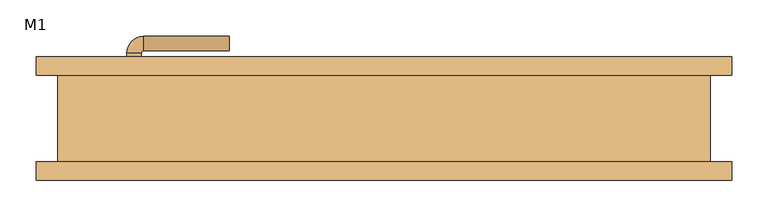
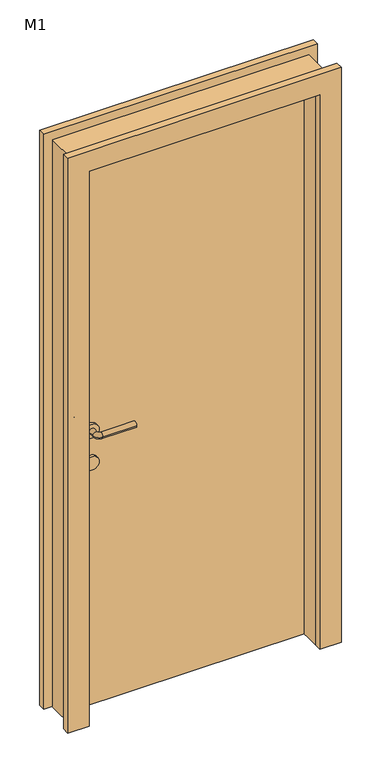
"""IFC4 building model written with IfcOpenShell, lengths in millimetres: door geometry, 单嵌板木门 1 : M1."""

from ifc_helpers import new_model, si_unit, point, frame, frame_2d, origin, origin_with_axes, place, context, project, spatial, polyline, circle_curve, ellipse_curve, trimmed, segment, composite_curve, outline, extrude, source, transform, mapped, element, save
from ifc_brep_helpers import plane_surface, cylinder_surface, revolved_surface, advanced_brep


def m1_b2f3dea5(model_context):
    return source(origin(), model_context, "Body", "SolidModel", [
        extrude(outline(composite_curve([segment(trimmed(circle_curve(frame_2d((900.0, -345.0)), 25.0), [point((900.0, -320.0))], [point((900.0, -370.0))], False, "CARTESIAN"), True, "CONTINUOUS"), segment(trimmed(circle_curve(frame_2d((900.0, -345.0)), 25.0), [point((900.0, -370.0))], [point((900.0, -320.0))], False, "CARTESIAN"), True, "CONTINUOUS")], self_intersect=False)), frame((0.0, 0.0, 0.0), z_axis=(0.0, 1.0, 0.0), x_axis=(0.0, 0.0, 1.0)), (0.0, 0.0, 1.0), 10.0),
        extrude(outline(composite_curve([segment(trimmed(circle_curve(frame_2d((900.0, -345.0)), 25.0), [point((900.0, -320.0))], [point((900.0, -370.0))], False, "CARTESIAN"), True, "CONTINUOUS"), segment(trimmed(circle_curve(frame_2d((900.0, -345.0)), 25.0), [point((900.0, -370.0))], [point((900.0, -320.0))], False, "CARTESIAN"), True, "CONTINUOUS")], self_intersect=False)), frame((0.0, 60.0, 0.0), z_axis=(0.0, 1.0, 0.0), x_axis=(0.0, 0.0, 1.0)), (0.0, 0.0, 1.0), 10.0),
        advanced_brep(
        [(-355.0, 0.0, 1020.0), (-335.0, 0.0, 1020.0), (-335.0, -20.613355, 1020.0), (-355.0, -20.613355, 1020.0), (-213.419036, -43.580964, 1020.0), (-213.419036, -23.580964, 1020.0), (-332.0323911, -23.580964, 1020.0), (-332.0323911, -43.580964, 1020.0)],
        [
            (0, 1, circle_curve(frame((-345.0, 0.0, 1020.0), z_axis=(0.0, 1.0, 0.0), x_axis=(1.0, 0.0, 0.0)), 10.0)),
            (1, 0, circle_curve(frame((-345.0, 0.0, 1020.0), z_axis=(0.0, 1.0, 0.0), x_axis=(1.0, 0.0, 0.0)), 10.0)),
            (1, 2),
            (2, 3, circle_curve(frame((-345.0, -20.613355, 1020.0), z_axis=(0.0, 1.0, 0.0), x_axis=(1.0, 0.0, 0.0)), 10.0)),
            (3, 0),
            (3, 2, circle_curve(frame((-345.0, -20.613355, 1020.0), z_axis=(0.0, 1.0, 0.0), x_axis=(1.0, 0.0, 0.0)), 10.0)),
            (4, 5, circle_curve(frame((-213.419036, -33.580964, 1020.0), z_axis=(1.0, 0.0, 0.0), x_axis=(0.0, 1.0, 0.0)), 10.0)),
            (5, 4, circle_curve(frame((-213.419036, -33.580964, 1020.0), z_axis=(1.0, 0.0, 0.0), x_axis=(0.0, 1.0, 0.0)), 10.0)),
            (6, 2, circle_curve(frame((-332.0323911, -20.613355, 1020.0), z_axis=(0.0, 0.0, -1.0), x_axis=(-1.0, 0.0, 0.0)), 2.9676089)),
            (3, 7, circle_curve(frame((-332.0323911, -20.613355, 1020.0), z_axis=(0.0, 0.0, 1.0), x_axis=(-1.0, 0.0, 0.0)), 22.9676089)),
            (7, 6, circle_curve(frame((-332.0323911, -33.580964, 1020.0), z_axis=(-1.0, 0.0, 0.0), x_axis=(0.0, 1.0, 0.0)), 10.0)),
            (6, 7, circle_curve(frame((-332.0323911, -33.580964, 1020.0), z_axis=(-1.0, 0.0, 0.0), x_axis=(0.0, 1.0, 0.0)), 10.0)),
            (7, 4),
            (5, 6),
        ],
        [
            plane_surface(frame((-345.0, 0.0, 900.0), z_axis=(0.0, 1.0, 0.0), x_axis=(0.0, 0.0, 1.0))),
            cylinder_surface(frame((-345.0, 0.0, 1020.0), z_axis=(0.0, 1.0, 0.0), x_axis=(1.0, 0.0, 0.0)), 10.0),
            plane_surface(frame((-213.419036, -33.580964, 900.0), z_axis=(1.0, 0.0, 0.0), x_axis=(0.0, 0.0, 1.0))),
            revolved_surface(trimmed(ellipse_curve(frame((-345.0, -20.613355, 1020.0), z_axis=(0.0, 1.0, 0.0), x_axis=(1.0, 0.0, 0.0)), 10.0, 10.0), [point((-355.0, -20.613355, 1020.0))], [point((-335.0, -20.613355, 1020.0))], True, "CARTESIAN"), (-332.0323911, -20.613355, 900.0), (0.0, 0.0, 1.0)),
            revolved_surface(trimmed(ellipse_curve(frame((-345.0, -20.613355, 1020.0), z_axis=(0.0, 1.0, 0.0), x_axis=(1.0, 0.0, 0.0)), 10.0, 10.0), [point((-335.0, -20.613355, 1020.0))], [point((-355.0, -20.613355, 1020.0))], True, "CARTESIAN"), (-332.0323911, -20.613355, 900.0), (0.0, 0.0, 1.0)),
            cylinder_surface(frame((-332.0323911, -33.580964, 1020.0), z_axis=(-1.0, 0.0, 0.0), x_axis=(0.0, 1.0, 0.0)), 10.0),
        ],
        [
            (0, [[1, 2]]),
            (1, [[-2, 3, 4, 5]]),
            (1, [[-1, -5, 6, -3]]),
            (2, [[7, 8]]),
            (3, [[9, -6, 10, 11]]),
            (4, [[-10, -4, -9, 12]]),
            (5, [[-11, 13, -8, 14]]),
            (5, [[-12, -14, -7, -13]]),
        ],
    ),
        extrude(outline(composite_curve([segment(trimmed(circle_curve(frame_2d((1020.0, -345.0)), 25.0), [point((1020.0, -320.0))], [point((1020.0, -370.0))], False, "CARTESIAN"), True, "CONTINUOUS"), segment(trimmed(circle_curve(frame_2d((1020.0, -345.0)), 25.0), [point((1020.0, -370.0))], [point((1020.0, -320.0))], False, "CARTESIAN"), True, "CONTINUOUS")], self_intersect=False)), frame((0.0, 0.0, 0.0), z_axis=(0.0, 1.0, 0.0), x_axis=(0.0, 0.0, 1.0)), (0.0, 0.0, 1.0), 10.0),
        advanced_brep(
        [(-335.0, 70.0, 1020.0), (-355.0, 70.0, 1020.0), (-335.0, 90.6133551, 1020.0), (-355.0, 90.6133551, 1020.0), (-213.419036, 93.580964, 1020.0), (-213.419036, 113.580964, 1020.0), (-332.0323911, 113.580964, 1020.0), (-332.0323911, 93.580964, 1020.0)],
        [
            (0, 1, circle_curve(frame((-345.0, 70.0, 1020.0), z_axis=(0.0, -1.0, 0.0), x_axis=(-1.0, 0.0, 0.0)), 10.0)),
            (1, 0, circle_curve(frame((-345.0, 70.0, 1020.0), z_axis=(0.0, -1.0, 0.0), x_axis=(-1.0, 0.0, 0.0)), 10.0)),
            (0, 2),
            (2, 3, circle_curve(frame((-345.0, 90.6133551, 1020.0), z_axis=(0.0, -1.0, 0.0), x_axis=(-1.0, 0.0, 0.0)), 10.0)),
            (3, 1),
            (3, 2, circle_curve(frame((-345.0, 90.6133551, 1020.0), z_axis=(0.0, -1.0, 0.0), x_axis=(-1.0, 0.0, 0.0)), 10.0)),
            (4, 5, circle_curve(frame((-213.419036, 103.580964, 1020.0), z_axis=(1.0, 0.0, 0.0), x_axis=(0.0, 1.0, 0.0)), 10.0)),
            (5, 4, circle_curve(frame((-213.419036, 103.580964, 1020.0), z_axis=(1.0, 0.0, 0.0), x_axis=(0.0, 1.0, 0.0)), 10.0)),
            (6, 3, circle_curve(frame((-332.0323911, 90.6133551, 1020.0), z_axis=(0.0, 0.0, 1.0), x_axis=(-1.0, 0.0, 0.0)), 22.9676089)),
            (2, 7, circle_curve(frame((-332.0323911, 90.6133551, 1020.0), z_axis=(0.0, 0.0, -1.0), x_axis=(-1.0, 0.0, 0.0)), 2.9676089)),
            (7, 6, circle_curve(frame((-332.0323911, 103.580964, 1020.0), z_axis=(-1.0, 0.0, 0.0), x_axis=(0.0, 1.0, 0.0)), 10.0)),
            (6, 7, circle_curve(frame((-332.0323911, 103.580964, 1020.0), z_axis=(-1.0, 0.0, 0.0), x_axis=(0.0, 1.0, 0.0)), 10.0)),
            (7, 4),
            (5, 6),
        ],
        [
            plane_surface(frame((-345.0, 70.0, 900.0), z_axis=(0.0, -1.0, 0.0), x_axis=(0.0, 0.0, 1.0))),
            cylinder_surface(frame((-345.0, 70.0, 1020.0), z_axis=(0.0, -1.0, 0.0), x_axis=(-1.0, 0.0, 0.0)), 10.0),
            plane_surface(frame((-213.419036, 103.580964, 900.0), z_axis=(1.0, 0.0, 0.0), x_axis=(0.0, 0.0, 1.0))),
            revolved_surface(trimmed(ellipse_curve(frame((-345.0, 90.6133551, 1020.0), z_axis=(0.0, -1.0, 0.0), x_axis=(-1.0, 0.0, 0.0)), 10.0, 10.0), [point((-335.0, 90.6133551, 1020.0))], [point((-355.0, 90.6133551, 1020.0))], True, "CARTESIAN"), (-332.0323911, 90.6133551, 900.0), (0.0, 0.0, -1.0)),
            revolved_surface(trimmed(ellipse_curve(frame((-345.0, 90.6133551, 1020.0), z_axis=(0.0, -1.0, 0.0), x_axis=(-1.0, 0.0, 0.0)), 10.0, 10.0), [point((-355.0, 90.6133551, 1020.0))], [point((-335.0, 90.6133551, 1020.0))], True, "CARTESIAN"), (-332.0323911, 90.6133551, 900.0), (0.0, 0.0, -1.0)),
            cylinder_surface(frame((-332.0323911, 103.580964, 1020.0), z_axis=(-1.0, 0.0, 0.0), x_axis=(0.0, 1.0, 0.0)), 10.0),
        ],
        [
            (0, [[1, 2]]),
            (1, [[-1, 3, 4, 5]]),
            (1, [[-2, -5, 6, -3]]),
            (2, [[7, 8]]),
            (3, [[9, -4, 10, 11]]),
            (4, [[-10, -6, -9, 12]]),
            (5, [[-11, 13, -8, 14]]),
            (5, [[-12, -14, -7, -13]]),
        ],
    ),
        extrude(outline(composite_curve([segment(trimmed(circle_curve(frame_2d((1020.0, -345.0)), 25.0), [point((1020.0, -320.0))], [point((1020.0, -370.0))], False, "CARTESIAN"), True, "CONTINUOUS"), segment(trimmed(circle_curve(frame_2d((1020.0, -345.0)), 25.0), [point((1020.0, -370.0))], [point((1020.0, -320.0))], False, "CARTESIAN"), True, "CONTINUOUS")], self_intersect=False)), frame((0.0, 60.0, 0.0), z_axis=(0.0, 1.0, 0.0), x_axis=(0.0, 0.0, 1.0)), (0.0, 0.0, 1.0), 10.0),
        extrude(outline(polyline([(0.0, 480.0), (2130.0, 480.0), (2130.0, -480.0), (0.0, -480.0), (0.0, -405.0), (2055.0, -405.0), (2055.0, 405.0), (0.0, 405.0), (0.0, 480.0)])), frame((0.0, 60.0, 0.0), z_axis=(0.0, 1.0, 0.0), x_axis=(0.0, 0.0, 1.0)), (0.0, 0.0, 1.0), 25.0),
        extrude(outline(polyline([(2130.0, 480.0), (2130.0, -480.0), (0.0, -480.0), (0.0, -405.0), (2055.0, -405.0), (2055.0, 405.0), (0.0, 405.0), (0.0, 480.0), (2130.0, 480.0)])), frame((0.0, -85.0, 0.0), z_axis=(0.0, 1.0, 0.0), x_axis=(0.0, 0.0, 1.0)), (0.0, 0.0, 1.0), 25.0),
        extrude(outline(polyline([(405.0, 10.0), (-405.0, 10.0), (-405.0, 60.0), (405.0, 60.0), (405.0, 10.0)])), origin_with_axes(), (0.0, 0.0, 1.0), 2055.0),
        extrude(outline(polyline([(2100.0, -450.0), (0.0, -450.0), (0.0, -405.0), (2055.0, -405.0), (2055.0, 405.0), (0.0, 405.0), (0.0, 450.0), (2100.0, 450.0), (2100.0, -450.0)])), frame((0.0, -60.0, 0.0), z_axis=(0.0, 1.0, 0.0), x_axis=(0.0, 0.0, 1.0)), (0.0, 0.0, 1.0), 120.0),
    ])


if __name__ == "__main__":
    model = new_model("IFC4")
    model_context = context("Model", 3, world=origin())
    ifc_project = project(units=[si_unit("LENGTHUNIT", "METRE", prefix="MILLI")], contexts=[model_context])
    site = spatial("IfcSite", under=ifc_project)
    building = spatial("IfcBuilding", under=site)
    placement = place(None, origin())
    m1_shape = m1_b2f3dea5(model_context)
    element("IfcDoor", 1, ObjectType="单嵌板木门 1 : M1", at=placement, inside=building, context=model_context, shape_type="MappedRepresentation", body=[
        mapped(m1_shape, transform((0.0, 0.0, 0.0), x_axis=(1.0, 0.0, 0.0), y_axis=(0.0, 1.0, 0.0), z_axis=(0.0, 0.0, 1.0))),
    ])
    save(model, "model.ifc")
